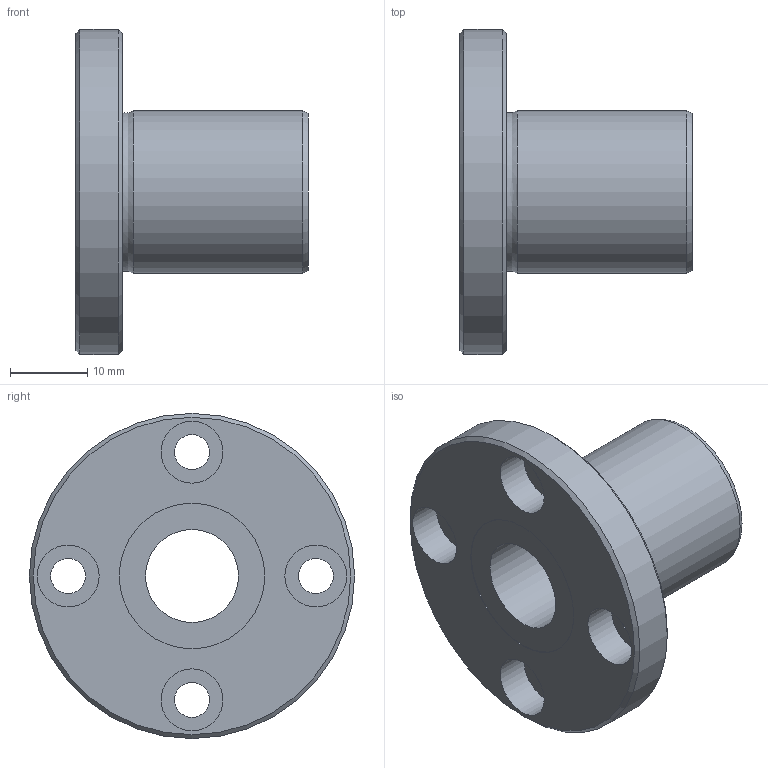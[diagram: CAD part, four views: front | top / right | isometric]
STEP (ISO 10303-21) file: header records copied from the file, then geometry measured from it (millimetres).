
FILE_DESCRIPTION((''),'2;1');
FILE_NAME('D:\製品 (図面)\カタログ用3D\リニアベアリング関連\STEP形式\LF\LF12B.stp','2010-06-03T09:12:26',('Tsuchiya'),(''),'Autodesk Inventor 10','Autodesk Inventor 10','');
FILE_SCHEMA(('AUTOMOTIVE_DESIGN { 1 0 10303 214 1 1 1 1 }'));
Length unit declared in the file: millimetre
Products named in the file (1): LF12B
Bounding box: 30 x 42 x 42 mm (x, y, z)
Volume: 12166 mm3; surface area: 6377.1 mm2
Topology: 1 solids, 1 shells, 26 faces, 47 edges, 30 vertices
Faces by surface type: cylinder 13, plane 9, cone 2, torus 1, bspline 1
Full cylindrical faces by diameter (mm): 4.5 x4, 8 x4, 12 x1, 18.8 x2, 21 x1, 42 x1
Entity records: 665 total; most frequent: CARTESIAN_POINT 149, DIRECTION 112, ORIENTED_EDGE 60, EDGE_LOOP 60, AXIS2_PLACEMENT_3D 56, FACE_BOUND 34, VERTEX_POINT 30, CIRCLE 30
